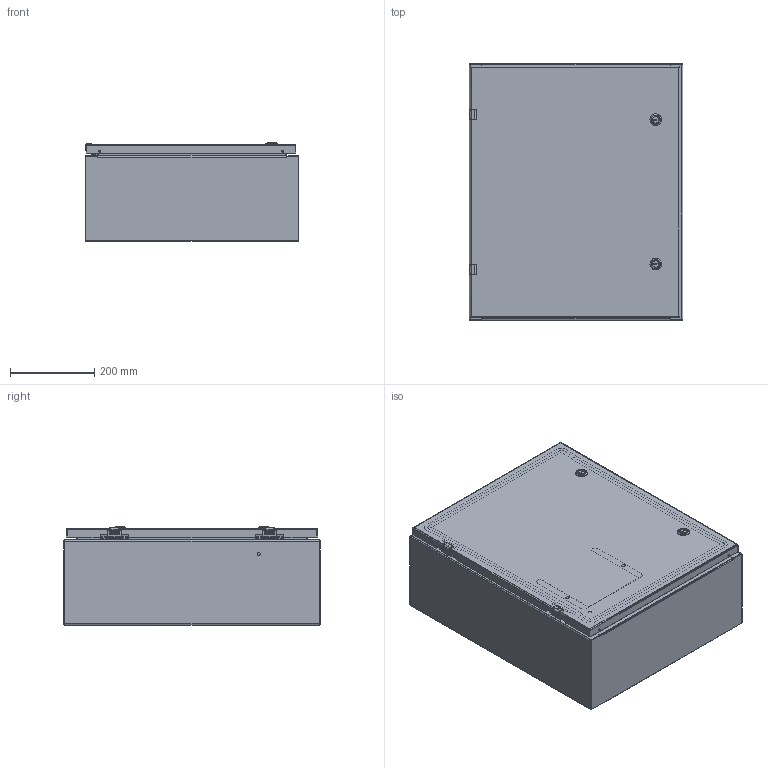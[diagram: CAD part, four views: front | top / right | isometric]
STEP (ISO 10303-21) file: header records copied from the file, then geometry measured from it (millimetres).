
FILE_DESCRIPTION((''),'2;1');
FILE_NAME('MODEL-305_ASM','2025-02-18T10:51:34',('joshi'),('SAGINAW CONTROL & ENGINEERING'),'CREO PARAMETRIC BY PTC INC, 2021284','CREO PARAMETRIC BY PTC INC, 2021284','');
FILE_SCHEMA(('AUTOMOTIVE_DESIGN { 1 0 10303 214 1 1 1 1 }'));
Length unit declared in the file: inch
Products named in the file (29): MODEL-305-BDY; MODEL-305-TP; MODEL-305-BTM; MODEL-305-DR; 100837; 100882; 111541; 100794_SHAFT; 100794_INSERT; 100794_CAM; 100794_NUT; 100794_SCREW; 100794_ASM; MODEL-305-DOOR-GASKET; 126391; 126391_ASM; 126393; 102483; 101226; 101376; 102140; 132757; MODEL-305-DOOR-ASSY_ASM; 101653; 122191; SUBPANEL; 100904; SUBPANEL-SUBASSEMBLY_ASM; MODEL-305_ASM
Assembly tree (50 placements, depth 4):
  MODEL-305_ASM
    MODEL-305-BDY
    MODEL-305-TP
    MODEL-305-BTM
    MODEL-305-DOOR-ASSY_ASM
      MODEL-305-DR
      100837  x3
      100882  x2
      111541
      100794_ASM  x2
        100794_SHAFT
        100794_INSERT
        100794_CAM
        100794_NUT
        100794_SCREW
      MODEL-305-DOOR-GASKET
      126391_ASM  x2
        126391
      126393  x2
      102483  x6
      101226  x2
      101376  x2
      102140  x2
      132757  x2
    100837
    101653  x4
    122191
    SUBPANEL-SUBASSEMBLY_ASM
      SUBPANEL
      100904  x4
Bounding box: 508 x 609.6 x 234.33 mm (x, y, z)
Volume: 3403667 mm3; surface area: 3116994.6 mm2
Topology: 51 solids, 51 shells, 3039 faces, 7700 edges, 4834 vertices
Faces by surface type: plane 1354, cylinder 847, bspline 436, torus 222, cone 124, sphere 56
Entity records: 84241 total; most frequent: CARTESIAN_POINT 24373, ORIENTED_EDGE 8616, DIRECTION 8160, PRESENTATION_STYLE_ASSIGNMENT 4506, EDGE_CURVE 4308, STYLED_ITEM 4231, CURVE_STYLE 4146, AXIS2_PLACEMENT_3D 2994
